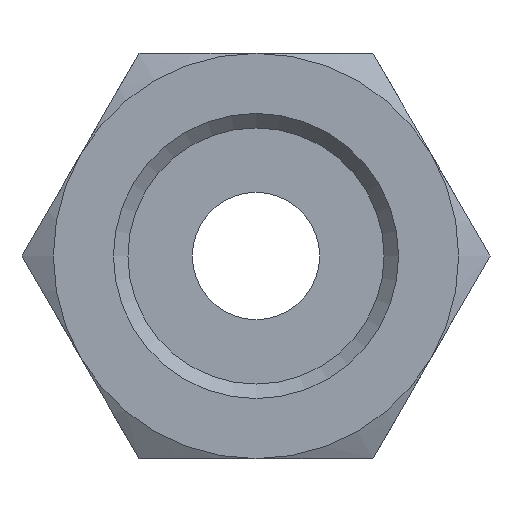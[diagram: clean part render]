
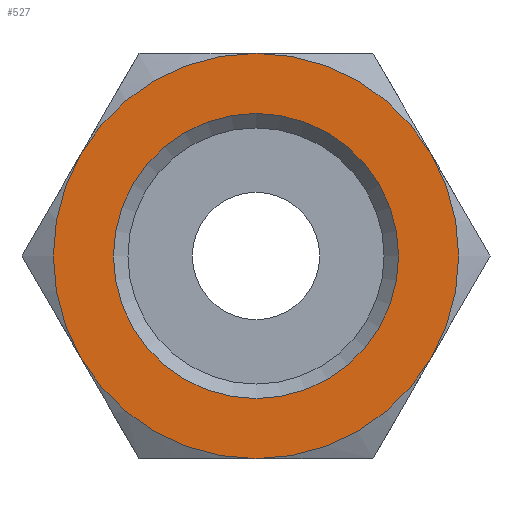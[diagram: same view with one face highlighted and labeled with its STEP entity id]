
A CAD part, front view. The second image highlights one B-rep face of the part: STEP entity #527.
In plain terms, the highlighted planar face has unit normal (0, -1, 0).
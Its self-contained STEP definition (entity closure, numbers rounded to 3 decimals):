
#40=FACE_BOUND('',#153,.T.);
#47=PLANE('',#597);
#116=FACE_OUTER_BOUND('',#152,.T.);
#152=EDGE_LOOP('',(#388,#389,#390,#391,#392,#393));
#153=EDGE_LOOP('',(#394));
#201=CIRCLE('',#596,4.924);
#202=CIRCLE('',#598,7.);
#203=CIRCLE('',#599,7.);
#204=CIRCLE('',#600,7.);
#205=CIRCLE('',#601,7.);
#206=CIRCLE('',#602,7.);
#207=CIRCLE('',#603,7.);
#241=VERTEX_POINT('',#858);
#242=VERTEX_POINT('',#862);
#243=VERTEX_POINT('',#863);
#244=VERTEX_POINT('',#865);
#245=VERTEX_POINT('',#867);
#246=VERTEX_POINT('',#869);
#247=VERTEX_POINT('',#871);
#298=EDGE_CURVE('',#241,#241,#201,.T.);
#299=EDGE_CURVE('',#242,#243,#202,.T.);
#300=EDGE_CURVE('',#243,#244,#203,.T.);
#301=EDGE_CURVE('',#244,#245,#204,.T.);
#302=EDGE_CURVE('',#245,#246,#205,.T.);
#303=EDGE_CURVE('',#246,#247,#206,.T.);
#304=EDGE_CURVE('',#247,#242,#207,.T.);
#388=ORIENTED_EDGE('',*,*,#299,.T.);
#389=ORIENTED_EDGE('',*,*,#300,.T.);
#390=ORIENTED_EDGE('',*,*,#301,.T.);
#391=ORIENTED_EDGE('',*,*,#302,.T.);
#392=ORIENTED_EDGE('',*,*,#303,.T.);
#393=ORIENTED_EDGE('',*,*,#304,.T.);
#394=ORIENTED_EDGE('',*,*,#298,.F.);
#527=ADVANCED_FACE('',(#116,#40),#47,.T.);
#596=AXIS2_PLACEMENT_3D('',#860,#698,#699);
#597=AXIS2_PLACEMENT_3D('',#861,#700,#701);
#598=AXIS2_PLACEMENT_3D('',#864,#702,#703);
#599=AXIS2_PLACEMENT_3D('',#866,#704,#705);
#600=AXIS2_PLACEMENT_3D('',#868,#706,#707);
#601=AXIS2_PLACEMENT_3D('',#870,#708,#709);
#602=AXIS2_PLACEMENT_3D('',#872,#710,#711);
#603=AXIS2_PLACEMENT_3D('',#873,#712,#713);
#698=DIRECTION('center_axis',(0.,-1.,0.));
#699=DIRECTION('ref_axis',(-1.,0.,0.));
#700=DIRECTION('center_axis',(0.,-1.,0.));
#701=DIRECTION('ref_axis',(0.,0.,-1.));
#702=DIRECTION('center_axis',(0.,-1.,0.));
#703=DIRECTION('ref_axis',(1.,0.,0.));
#704=DIRECTION('center_axis',(0.,-1.,0.));
#705=DIRECTION('ref_axis',(1.,0.,0.));
#706=DIRECTION('center_axis',(0.,-1.,0.));
#707=DIRECTION('ref_axis',(1.,0.,0.));
#708=DIRECTION('center_axis',(0.,-1.,0.));
#709=DIRECTION('ref_axis',(1.,0.,0.));
#710=DIRECTION('center_axis',(0.,-1.,0.));
#711=DIRECTION('ref_axis',(1.,0.,0.));
#712=DIRECTION('center_axis',(0.,-1.,0.));
#713=DIRECTION('ref_axis',(1.,0.,0.));
#858=CARTESIAN_POINT('',(4.924,0.,0.));
#860=CARTESIAN_POINT('Origin',(0.,0.,0.));
#861=CARTESIAN_POINT('Origin',(4.424,0.,0.));
#862=CARTESIAN_POINT('',(0.,0.,7.));
#863=CARTESIAN_POINT('',(-6.062,0.,3.5));
#864=CARTESIAN_POINT('Origin',(0.,0.,0.));
#865=CARTESIAN_POINT('',(-6.062,0.,-3.5));
#866=CARTESIAN_POINT('Origin',(0.,0.,0.));
#867=CARTESIAN_POINT('',(0.,0.,-7.));
#868=CARTESIAN_POINT('Origin',(0.,0.,0.));
#869=CARTESIAN_POINT('',(6.062,0.,-3.5));
#870=CARTESIAN_POINT('Origin',(0.,0.,0.));
#871=CARTESIAN_POINT('',(6.062,0.,3.5));
#872=CARTESIAN_POINT('Origin',(0.,0.,0.));
#873=CARTESIAN_POINT('Origin',(0.,0.,0.));
